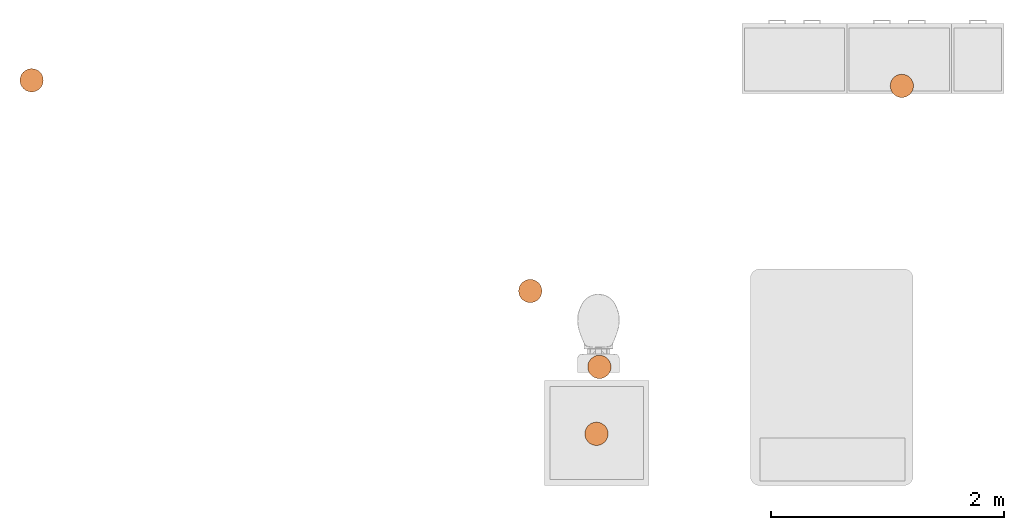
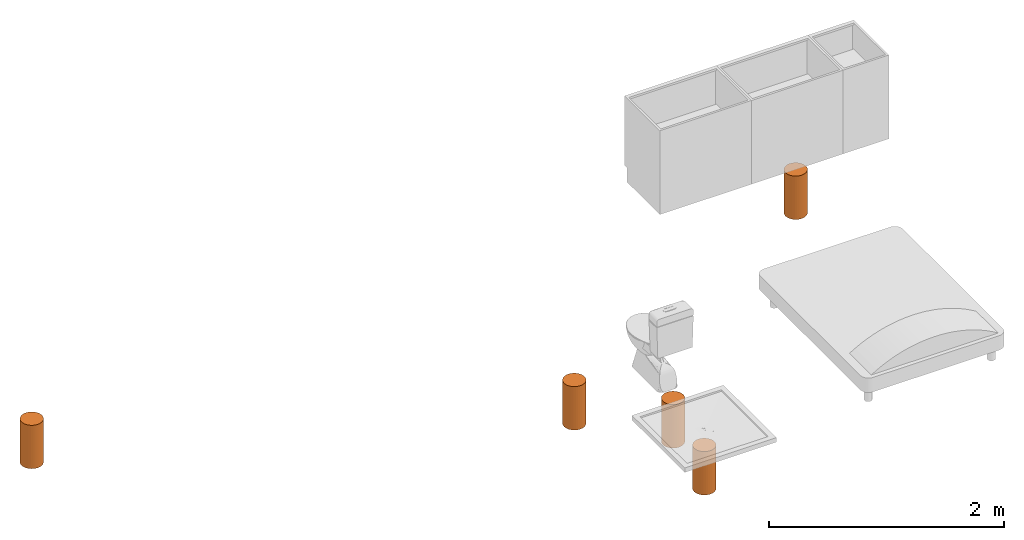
# One storey, part 3 of 3: 5 proxies.
"""IFC2X3 building model written with IfcOpenShell, lengths in metres."""

from ifc_helpers import new_model, entity, si_unit, converted_unit, derived_unit, direction, frame, frame_2d, origin, place, context, subcontext, project, spatial, circle, extrude, source, transform, mapped, material, type_object, type_shapes, element, save


model = new_model("IFC2X3")

# Units and contexts
model_context = context("Model", 3, precision=1e-05, world=origin(), true_north=direction((6.123031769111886e-17, 1.0)))
body_context = subcontext(model_context, "Body", "Model", "MODEL_VIEW")
ifc_project = project(units=[si_unit("LENGTHUNIT", "METRE"), si_unit("AREAUNIT", "SQUARE_METRE"), si_unit("VOLUMEUNIT", "CUBIC_METRE"), converted_unit("PLANEANGLEUNIT", "DEGREE", entity("IfcRatioMeasure", 0.017453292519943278), si_unit("PLANEANGLEUNIT", "RADIAN"), dimensions=[0, 0, 0, 0, 0, 0, 0]), si_unit("MASSUNIT", "GRAM", prefix="KILO"), derived_unit("MASSDENSITYUNIT", [(si_unit("MASSUNIT", "GRAM", prefix="KILO"), 1), (si_unit("LENGTHUNIT", "METRE"), -3)]), derived_unit("IONCONCENTRATIONUNIT", [(si_unit("MASSUNIT", "GRAM", prefix="KILO"), 1), (si_unit("LENGTHUNIT", "METRE"), -3)]), derived_unit("MOMENTOFINERTIAUNIT", [(si_unit("LENGTHUNIT", "METRE"), 4)]), si_unit("TIMEUNIT", "SECOND"), si_unit("FREQUENCYUNIT", "HERTZ"), si_unit("THERMODYNAMICTEMPERATUREUNIT", "DEGREE_CELSIUS"), derived_unit("THERMALTRANSMITTANCEUNIT", [(si_unit("MASSUNIT", "GRAM", prefix="KILO"), 1), (si_unit("THERMODYNAMICTEMPERATUREUNIT", "KELVIN"), -1), (si_unit("TIMEUNIT", "SECOND"), -3)]), derived_unit("THERMALCONDUCTANCEUNIT", [(si_unit("MASSUNIT", "GRAM", prefix="KILO"), 1), (si_unit("THERMODYNAMICTEMPERATUREUNIT", "KELVIN"), -1), (si_unit("TIMEUNIT", "SECOND"), -3), (si_unit("LENGTHUNIT", "METRE"), 1)]), derived_unit("VOLUMETRICFLOWRATEUNIT", [(si_unit("LENGTHUNIT", "METRE"), 3), (si_unit("TIMEUNIT", "SECOND"), -1)]), derived_unit("MASSFLOWRATEUNIT", [(si_unit("MASSUNIT", "GRAM", prefix="KILO"), 1), (si_unit("TIMEUNIT", "SECOND"), -1)]), derived_unit("ROTATIONALFREQUENCYUNIT", [(si_unit("TIMEUNIT", "SECOND"), -1)]), si_unit("ELECTRICCURRENTUNIT", "AMPERE"), si_unit("ELECTRICVOLTAGEUNIT", "VOLT"), si_unit("POWERUNIT", "WATT"), si_unit("FORCEUNIT", "NEWTON", prefix="KILO"), si_unit("ILLUMINANCEUNIT", "LUX"), si_unit("LUMINOUSFLUXUNIT", "LUMEN"), si_unit("LUMINOUSINTENSITYUNIT", "CANDELA"), derived_unit("USERDEFINED", [(si_unit("MASSUNIT", "GRAM", prefix="KILO"), -1), (si_unit("LENGTHUNIT", "METRE"), -2), (si_unit("TIMEUNIT", "SECOND"), 3), (si_unit("LUMINOUSFLUXUNIT", "LUMEN"), 1)]), derived_unit("USERDEFINED", [(si_unit("MASSUNIT", "GRAM", prefix="KILO"), 1), (si_unit("TIMEUNIT", "SECOND"), -3), (si_unit("LENGTHUNIT", "METRE"), 3), (si_unit("ELECTRICCURRENTUNIT", "AMPERE"), -2)]), derived_unit("SOUNDPOWERUNIT", [(si_unit("MASSUNIT", "GRAM", prefix="KILO"), 1), (si_unit("TIMEUNIT", "SECOND"), -3), (si_unit("LENGTHUNIT", "METRE"), 2)]), derived_unit("SOUNDPRESSUREUNIT", [(si_unit("MASSUNIT", "GRAM", prefix="KILO"), 1), (si_unit("LENGTHUNIT", "METRE"), -1), (si_unit("TIMEUNIT", "SECOND"), -2)]), derived_unit("LINEARVELOCITYUNIT", [(si_unit("LENGTHUNIT", "METRE"), 1), (si_unit("TIMEUNIT", "SECOND"), -1)]), si_unit("PRESSUREUNIT", "PASCAL"), derived_unit("USERDEFINED", [(si_unit("MASSUNIT", "GRAM", prefix="KILO"), 1), (si_unit("LENGTHUNIT", "METRE"), -2), (si_unit("TIMEUNIT", "SECOND"), -2)]), derived_unit("LINEARFORCEUNIT", [(si_unit("MASSUNIT", "GRAM", prefix="KILO"), 1), (si_unit("TIMEUNIT", "SECOND"), -2)]), derived_unit("PLANARFORCEUNIT", [(si_unit("MASSUNIT", "GRAM", prefix="KILO"), 1), (si_unit("LENGTHUNIT", "METRE"), -1), (si_unit("TIMEUNIT", "SECOND"), -2)]), derived_unit("SPECIFICHEATCAPACITYUNIT", [(si_unit("THERMODYNAMICTEMPERATUREUNIT", "KELVIN"), -1), (si_unit("LENGTHUNIT", "METRE"), 2), (si_unit("TIMEUNIT", "SECOND"), -2)]), derived_unit("HEATINGVALUEUNIT", [(si_unit("LENGTHUNIT", "METRE"), 2), (si_unit("TIMEUNIT", "SECOND"), -2)]), derived_unit("VAPORPERMEABILITYUNIT", [(si_unit("LENGTHUNIT", "METRE"), -1), (si_unit("TIMEUNIT", "SECOND"), 1)]), derived_unit("DYNAMICVISCOSITYUNIT", [(si_unit("MASSUNIT", "GRAM", prefix="KILO"), 1), (si_unit("TIMEUNIT", "SECOND"), -1), (si_unit("LENGTHUNIT", "METRE"), -1)]), derived_unit("THERMALEXPANSIONCOEFFICIENTUNIT", [(si_unit("THERMODYNAMICTEMPERATUREUNIT", "KELVIN"), -1)]), derived_unit("MODULUSOFELASTICITYUNIT", [(si_unit("MASSUNIT", "GRAM", prefix="KILO"), 1), (si_unit("LENGTHUNIT", "METRE"), -1), (si_unit("TIMEUNIT", "SECOND"), -2)]), derived_unit("ISOTHERMALMOISTURECAPACITYUNIT", [(si_unit("LENGTHUNIT", "METRE"), 3), (si_unit("MASSUNIT", "GRAM", prefix="KILO"), -1)]), derived_unit("MOISTUREDIFFUSIVITYUNIT", [(si_unit("TIMEUNIT", "SECOND"), -1), (si_unit("LENGTHUNIT", "METRE"), 2)])], contexts=[model_context])

# Site, building, storey, space
site_placement = place(None, frame((1.2553507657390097, -0.6266432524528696, -1.0397761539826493), z_axis=(0.0, 0.0, 1.0), x_axis=(-1.0, 0.0, 0.0)))
site = spatial("IfcSite", under=ifc_project, at=site_placement, Name="Default", CompositionType="ELEMENT")
building_placement = place(site_placement, origin())
building = spatial("IfcBuilding", under=site, at=building_placement, Name="MAISON D'HABITATION", CompositionType="ELEMENT")
storey_placement = place(building_placement, frame((0.0, 0.0, -0.1602238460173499)))
storey = spatial("IfcBuildingStorey", under=building, at=storey_placement, Name="Niveau ...", CompositionType="ELEMENT", Elevation=-0.1602238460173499)
space_placement = place(storey_placement, origin())
space = spatial("IfcSpace", under=storey, at=space_placement, Name="08", CompositionType="ELEMENT", InteriorOrExteriorSpace="INTERNAL")

# Proxies
ifc_material = material(Name="<Unnamed>")
building_element_proxy_type_1 = type_object("IfcBuildingElementProxyType", Name="possition evac:possition evac", PredefinedType="NOTDEFINED", material=ifc_material)
shared_shape_1 = source(origin(), body_context, "Body", "SweptSolid", [
    extrude(circle(Radius=0.1, at=frame_2d((1.903783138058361e-19, -1.6155445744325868e-16), x_axis=(1.0, 0.0))), frame((0.0, 0.0, -0.5000000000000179)), (0.0, 0.0, 1.0), 0.45112032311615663),
])
type_shapes(building_element_proxy_type_1, [shared_shape_1])
for number, where, name in (
    (1, (-3.6418669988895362, -0.43781695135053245, 1.1999999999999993), "possition evac:possition evac"),
    (2, (-1.0428669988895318, 1.9771830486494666, 1.1999999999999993), "possition evac:possition evac"),
    (3, (-0.44886699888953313, 1.3251830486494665, 1.1999999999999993), "possition evac:possition evac"),
    (4, (3.83613300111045, -0.48581695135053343, 1.1999999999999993), "possition evac:possition evac"),
):
    element("IfcBuildingElementProxy", number, at=place(space_placement, frame(where)), inside=space, type_object=building_element_proxy_type_1, material=ifc_material, Name=name, ObjectType="possition evac:possition evac", context=body_context, shape_type="MappedRepresentation", body=[
        mapped(shared_shape_1, transform((0.0, 0.0, 0.0), scale=1.0)),
    ])
building_element_proxy_type_2 = type_object("IfcBuildingElementProxyType", Name="possition evac:possition evac", PredefinedType="NOTDEFINED", material=ifc_material)
shared_shape_2 = source(origin(), body_context, "Body", "SweptSolid", [
    extrude(circle(Radius=0.1, at=frame_2d((1.903783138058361e-19, -1.6155445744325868e-16), x_axis=(1.0, 0.0))), frame((0.0, 0.0, -0.5000000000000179)), (0.0, 0.0, 1.0), 0.45112032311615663),
])
type_shapes(building_element_proxy_type_2, [shared_shape_2])
proxy_placement = place(space_placement, frame((-1.0178669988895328, 2.5521830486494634, 1.0699999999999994)))
element("IfcBuildingElementProxy", 5, at=proxy_placement, inside=space, type_object=building_element_proxy_type_2, material=ifc_material, Name="possition evac:possition evac", ObjectType="possition evac:possition evac", context=body_context, shape_type="MappedRepresentation", body=[
    mapped(shared_shape_2, transform((0.0, 0.0, 0.0), scale=1.0)),
])

save(model, "model.ifc")
